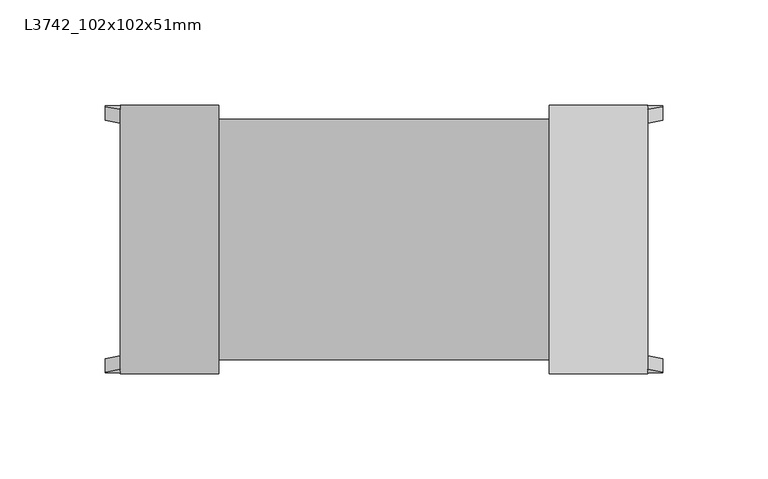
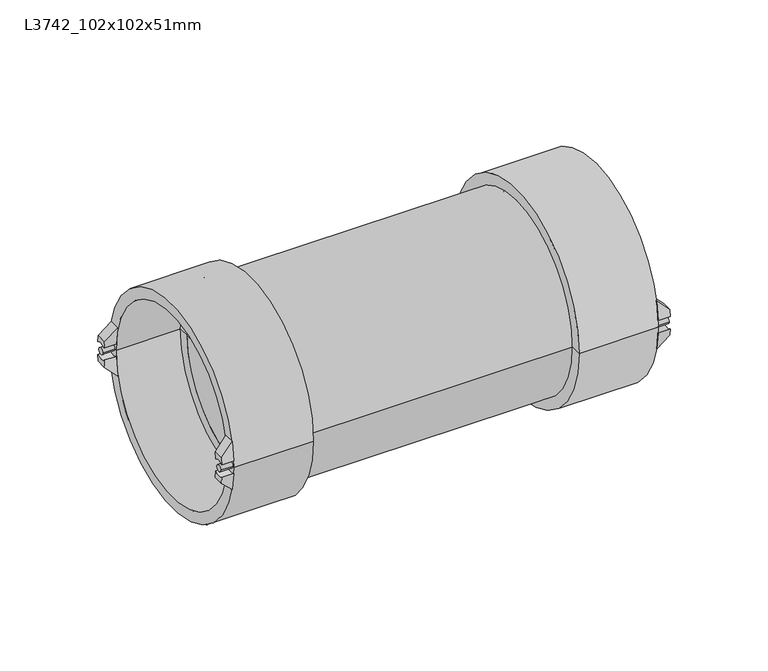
"""IFC4 building model written with IfcOpenShell, lengths in millimetres: pipe fitting geometry, Durapipe_PipeFitting_VulcatheneEnfusion_SingleReducingWye_L37 : L3742_102x102x51mm."""

from ifc_helpers import new_model, si_unit, point, frame, frame_2d, origin, place, context, project, spatial, polyline, circle_curve, ellipse_curve, trimmed, segment, composite_curve, outline, extrude, source, transform, mapped, element, save
from ifc_brep_helpers import plane_surface, cylinder_surface, revolved_surface, advanced_brep


def l3742_102x102x51mm_a3f06ccc(model_context):
    return source(origin(), model_context, "Body", "SolidModel", [
        advanced_brep(
        [(210.5, -57.1766484, -3.7577755), (210.5, -63.5266484, -3.9607376), (210.5, -63.1528218, -7.94), (210.5, -56.7472149, -7.94), (203.4, -61.8572752, -15.0), (203.4, -63.5266484, -3.9607376), (203.4, -57.1766484, -3.7577755), (203.4, -55.3018083, -15.0)],
        [
            (0, 1, circle_curve(frame((210.5, -60.475, 0.0), z_axis=(-1.0, 0.0, 0.0), x_axis=(0.0, 1.0, 0.0)), 5.0)),
            (1, 2, circle_curve(frame((210.5, 0.0, 0.0), z_axis=(1.0, 0.0, 0.0), x_axis=(0.0, 1.0, 0.0)), 63.65)),
            (2, 3),
            (3, 0, circle_curve(frame((210.5, 0.0, 0.0), z_axis=(-1.0, 0.0, 0.0), x_axis=(0.0, 1.0, 0.0)), 57.3)),
            (4, 5, circle_curve(frame((203.4, 0.0, 0.0), z_axis=(-1.0, 0.0, 0.0), x_axis=(0.0, 1.0, 0.0)), 63.65)),
            (5, 6, circle_curve(frame((203.4, -60.475, 0.0), z_axis=(1.0, 0.0, 0.0), x_axis=(0.0, 1.0, 0.0)), 5.0)),
            (6, 7, circle_curve(frame((203.4, 0.0, 0.0), z_axis=(1.0, 0.0, 0.0), x_axis=(0.0, 1.0, 0.0)), 57.3)),
            (7, 4),
            (6, 0),
            (3, 7, ellipse_curve(frame((218.4849858, 0.0, 0.0), z_axis=(0.705106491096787, 0.0, -0.7091014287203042), x_axis=(-0.7091014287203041, 0.0, -0.705106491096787)), 81.2643207, 57.3)),
            (4, 2, ellipse_curve(frame((218.4849858, 0.0, 0.0), z_axis=(-0.705106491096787, 0.0, 0.7091014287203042), x_axis=(0.7091014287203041, 0.0, 0.705106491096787)), 90.2700525, 63.65)),
            (1, 5),
        ],
        [
            plane_surface(frame((210.5, -61.8572752, -15.0), z_axis=(1.0, 0.0, 0.0), x_axis=(0.0, 1.0, 0.0))),
            plane_surface(frame((203.4, -61.8572752, -15.0), z_axis=(-1.0, 0.0, 0.0), x_axis=(0.0, -1.0, 0.0))),
            revolved_surface(polyline([(160.860339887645, 57.3, 0.0), (276.109631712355, 57.3, 0.0)]), (203.4, 0.0, 0.0), (-1.0, 0.0, 0.0)),
            cylinder_surface(frame((203.4, 0.0, 0.0), z_axis=(1.0, 0.0, 0.0), x_axis=(0.0, 1.0, 0.0)), 63.65),
            revolved_surface(polyline([(210.5, -55.475, 0.0), (203.4, -55.475, 0.0)]), (203.4, -60.475, 0.0), (1.0, 0.0, 0.0)),
            plane_surface(frame((203.4, 63.65, -15.0), z_axis=(0.705106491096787, 0.0, -0.7091014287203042), x_axis=(0.0, -1.0, 0.0))),
        ],
        [
            (0, [[1, 2, 3, 4]]),
            (1, [[5, 6, 7, 8]]),
            (2, [[-7, 9, -4, 10]]),
            (3, [[-5, 11, -2, 12]]),
            (4, [[-1, -9, -6, -12]]),
            (5, [[-3, -11, -8, -10]]),
        ],
    ),
        advanced_brep(
        [(210.5, -63.5266484, 3.9607376), (210.5, -57.1766484, 3.7577755), (210.5, -56.7472149, 7.94), (210.5, -63.1528218, 7.94), (203.4, -63.5266484, 3.9607376), (203.4, -61.8572752, 15.0), (203.4, -55.3018083, 15.0), (203.4, -57.1766484, 3.7577755)],
        [
            (0, 1, circle_curve(frame((210.5, -60.475, 0.0), z_axis=(-1.0, 0.0, 0.0), x_axis=(0.0, 1.0, 0.0)), 5.0)),
            (1, 2, circle_curve(frame((210.5, 0.0, 0.0), z_axis=(-1.0, 0.0, 0.0), x_axis=(0.0, 1.0, 0.0)), 57.3)),
            (2, 3),
            (3, 0, circle_curve(frame((210.5, 0.0, 0.0), z_axis=(1.0, 0.0, 0.0), x_axis=(0.0, 1.0, 0.0)), 63.65)),
            (4, 5, circle_curve(frame((203.4, 0.0, 0.0), z_axis=(-1.0, 0.0, 0.0), x_axis=(0.0, 1.0, 0.0)), 63.65)),
            (5, 6),
            (6, 7, circle_curve(frame((203.4, 0.0, 0.0), z_axis=(1.0, 0.0, 0.0), x_axis=(0.0, 1.0, 0.0)), 57.3)),
            (7, 4, circle_curve(frame((203.4, -60.475, 0.0), z_axis=(1.0, 0.0, 0.0), x_axis=(0.0, 1.0, 0.0)), 5.0)),
            (6, 2, ellipse_curve(frame((218.4849858, 0.0, 0.0), z_axis=(0.7051064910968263, 0.0, 0.7091014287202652), x_axis=(-0.7091014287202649, 0.0, 0.7051064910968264)), 81.2643207, 57.3)),
            (1, 7),
            (4, 0),
            (3, 5, ellipse_curve(frame((218.4849858, 0.0, 0.0), z_axis=(-0.7051064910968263, 0.0, -0.7091014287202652), x_axis=(0.7091014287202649, 0.0, -0.7051064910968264)), 90.2700525, 63.65)),
        ],
        [
            plane_surface(frame((210.5, -61.8572752, -15.0), z_axis=(1.0, 0.0, 0.0), x_axis=(0.0, 1.0, 0.0))),
            plane_surface(frame((203.4, -61.8572752, -15.0), z_axis=(-1.0, 0.0, 0.0), x_axis=(0.0, -1.0, 0.0))),
            revolved_surface(polyline([(160.8603398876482, 57.3, 0.0), (276.1096317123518, 57.3, 0.0)]), (203.4, 0.0, 0.0), (-1.0, 0.0, 0.0)),
            cylinder_surface(frame((203.4, 0.0, 0.0), z_axis=(1.0, 0.0, 0.0), x_axis=(0.0, 1.0, 0.0)), 63.65),
            revolved_surface(polyline([(210.5, -55.475, 0.0), (203.4, -55.475, 0.0)]), (203.4, -60.475, 0.0), (1.0, 0.0, 0.0)),
            plane_surface(frame((210.5, 63.65, 7.94), z_axis=(0.7051064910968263, 0.0, 0.7091014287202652), x_axis=(0.0, -1.0, 0.0))),
        ],
        [
            (0, [[1, 2, 3, 4]]),
            (1, [[5, 6, 7, 8]]),
            (2, [[-7, 9, -2, 10]]),
            (3, [[-5, 11, -4, 12]]),
            (4, [[-1, -11, -8, -10]]),
            (5, [[-3, -9, -6, -12]]),
        ],
    ),
        advanced_brep(
        [(210.5, 63.5266484, -3.9607376), (210.5, 57.1766484, -3.7577755), (210.5, 56.7472149, -7.94), (210.5, 63.1528218, -7.94), (203.4, 63.5266484, -3.9607376), (203.4, 61.8572752, -15.0), (203.4, 55.3018083, -15.0), (203.4, 57.1766484, -3.7577755)],
        [
            (0, 1, circle_curve(frame((210.5, 60.475, 0.0), z_axis=(-1.0, 0.0, 0.0), x_axis=(0.0, 1.0, 0.0)), 5.0)),
            (1, 2, circle_curve(frame((210.5, 0.0, 0.0), z_axis=(-1.0, 0.0, 0.0), x_axis=(0.0, 1.0, 0.0)), 57.3)),
            (2, 3),
            (3, 0, circle_curve(frame((210.5, 0.0, 0.0), z_axis=(1.0, 0.0, 0.0), x_axis=(0.0, 1.0, 0.0)), 63.65)),
            (4, 5, circle_curve(frame((203.4, 0.0, 0.0), z_axis=(-1.0, 0.0, 0.0), x_axis=(0.0, 1.0, 0.0)), 63.65)),
            (5, 6),
            (6, 7, circle_curve(frame((203.4, 0.0, 0.0), z_axis=(1.0, 0.0, 0.0), x_axis=(0.0, 1.0, 0.0)), 57.3)),
            (7, 4, circle_curve(frame((203.4, 60.475, 0.0), z_axis=(1.0, 0.0, 0.0), x_axis=(0.0, 1.0, 0.0)), 5.0)),
            (6, 2, ellipse_curve(frame((218.4849858, 0.0, 0.0), z_axis=(0.705106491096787, 0.0, -0.7091014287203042), x_axis=(-0.7091014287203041, 0.0, -0.705106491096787)), 81.2643207, 57.3)),
            (1, 7),
            (4, 0),
            (3, 5, ellipse_curve(frame((218.4849858, 0.0, 0.0), z_axis=(-0.705106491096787, 0.0, 0.7091014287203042), x_axis=(0.7091014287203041, 0.0, 0.705106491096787)), 90.2700525, 63.65)),
        ],
        [
            plane_surface(frame((210.5, -61.8572752, -15.0), z_axis=(1.0, 0.0, 0.0), x_axis=(0.0, 1.0, 0.0))),
            plane_surface(frame((203.4, -61.8572752, -15.0), z_axis=(-1.0, 0.0, 0.0), x_axis=(0.0, -1.0, 0.0))),
            revolved_surface(polyline([(160.860339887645, 57.3, 0.0), (276.109631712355, 57.3, 0.0)]), (203.4, 0.0, 0.0), (-1.0, 0.0, 0.0)),
            cylinder_surface(frame((203.4, 0.0, 0.0), z_axis=(1.0, 0.0, 0.0), x_axis=(0.0, 1.0, 0.0)), 63.65),
            revolved_surface(polyline([(210.5, 65.475, 0.0), (203.4, 65.475, 0.0)]), (203.4, 60.475, 0.0), (1.0, 0.0, 0.0)),
            plane_surface(frame((203.4, 63.65, -15.0), z_axis=(0.705106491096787, 0.0, -0.7091014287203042), x_axis=(0.0, -1.0, 0.0))),
        ],
        [
            (0, [[1, 2, 3, 4]]),
            (1, [[5, 6, 7, 8]]),
            (2, [[-7, 9, -2, 10]]),
            (3, [[-5, 11, -4, 12]]),
            (4, [[-1, -11, -8, -10]]),
            (5, [[-3, -9, -6, -12]]),
        ],
    ),
        advanced_brep(
        [(210.5, 57.1766484, 3.7577755), (210.5, 63.5266484, 3.9607376), (210.5, 63.1528218, 7.94), (210.5, 56.7472149, 7.94), (203.4, 61.8572752, 15.0), (203.4, 63.5266484, 3.9607376), (203.4, 57.1766484, 3.7577755), (203.4, 55.3018083, 15.0)],
        [
            (0, 1, circle_curve(frame((210.5, 60.475, 0.0), z_axis=(-1.0, 0.0, 0.0), x_axis=(0.0, 1.0, 0.0)), 5.0)),
            (1, 2, circle_curve(frame((210.5, 0.0, 0.0), z_axis=(1.0, 0.0, 0.0), x_axis=(0.0, 1.0, 0.0)), 63.65)),
            (2, 3),
            (3, 0, circle_curve(frame((210.5, 0.0, 0.0), z_axis=(-1.0, 0.0, 0.0), x_axis=(0.0, 1.0, 0.0)), 57.3)),
            (4, 5, circle_curve(frame((203.4, 0.0, 0.0), z_axis=(-1.0, 0.0, 0.0), x_axis=(0.0, 1.0, 0.0)), 63.65)),
            (5, 6, circle_curve(frame((203.4, 60.475, 0.0), z_axis=(1.0, 0.0, 0.0), x_axis=(0.0, 1.0, 0.0)), 5.0)),
            (6, 7, circle_curve(frame((203.4, 0.0, 0.0), z_axis=(1.0, 0.0, 0.0), x_axis=(0.0, 1.0, 0.0)), 57.3)),
            (7, 4),
            (6, 0),
            (3, 7, ellipse_curve(frame((218.4849858, 0.0, 0.0), z_axis=(0.7051064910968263, 0.0, 0.7091014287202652), x_axis=(-0.7091014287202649, 0.0, 0.7051064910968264)), 81.2643207, 57.3)),
            (4, 2, ellipse_curve(frame((218.4849858, 0.0, 0.0), z_axis=(-0.7051064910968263, 0.0, -0.7091014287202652), x_axis=(0.7091014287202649, 0.0, -0.7051064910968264)), 90.2700525, 63.65)),
            (1, 5),
        ],
        [
            plane_surface(frame((210.5, -61.8572752, -15.0), z_axis=(1.0, 0.0, 0.0), x_axis=(0.0, 1.0, 0.0))),
            plane_surface(frame((203.4, -61.8572752, -15.0), z_axis=(-1.0, 0.0, 0.0), x_axis=(0.0, -1.0, 0.0))),
            revolved_surface(polyline([(160.8603398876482, 57.3, 0.0), (276.1096317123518, 57.3, 0.0)]), (203.4, 0.0, 0.0), (-1.0, 0.0, 0.0)),
            cylinder_surface(frame((203.4, 0.0, 0.0), z_axis=(1.0, 0.0, 0.0), x_axis=(0.0, 1.0, 0.0)), 63.65),
            revolved_surface(polyline([(210.5, 65.475, 0.0), (203.4, 65.475, 0.0)]), (203.4, 60.475, 0.0), (1.0, 0.0, 0.0)),
            plane_surface(frame((210.5, 63.65, 7.94), z_axis=(0.7051064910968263, 0.0, 0.7091014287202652), x_axis=(0.0, -1.0, 0.0))),
        ],
        [
            (0, [[1, 2, 3, 4]]),
            (1, [[5, 6, 7, 8]]),
            (2, [[-7, 9, -4, 10]]),
            (3, [[-5, 11, -2, 12]]),
            (4, [[-1, -9, -6, -12]]),
            (5, [[-3, -11, -8, -10]]),
        ],
    ),
        extrude(outline(composite_curve([segment(trimmed(circle_curve(frame_2d((-60.475, 0.0)), 2.0), [point((-62.475, 0.0))], [point((-58.475, 0.0))], False, "CARTESIAN"), True, "CONTINUOUS"), segment(trimmed(circle_curve(frame_2d((-60.475, 0.0)), 2.0), [point((-58.475, 0.0))], [point((-62.475, 0.0))], False, "CARTESIAN"), True, "CONTINUOUS")], self_intersect=False)), frame((203.4, 0.0, 0.0), z_axis=(1.0, 0.0, 0.0), x_axis=(0.0, 1.0, 0.0)), (0.0, 0.0, 1.0), 7.1),
        extrude(outline(composite_curve([segment(trimmed(circle_curve(frame_2d((60.475, 0.0)), 2.0), [point((58.475, 0.0))], [point((62.475, 0.0))], False, "CARTESIAN"), True, "CONTINUOUS"), segment(trimmed(circle_curve(frame_2d((60.475, 0.0)), 2.0), [point((62.475, 0.0))], [point((58.475, 0.0))], False, "CARTESIAN"), True, "CONTINUOUS")], self_intersect=False)), frame((203.4, 0.0, 0.0), z_axis=(1.0, 0.0, 0.0), x_axis=(0.0, 1.0, 0.0)), (0.0, 0.0, 1.0), 7.1),
        advanced_brep(
        [(165.3, -50.75, 0.0), (165.3, 50.75, 0.0), (165.3, 57.15, 0.0), (165.3, -57.15, 0.0), (156.5, -50.75, 0.0), (156.5, 50.75, 0.0), (156.5, -63.8, 0.0), (156.5, 63.8, 0.0), (203.4, -63.8, 0.0), (203.4, 63.8, 0.0), (203.4, -57.15, 0.0), (203.4, 57.15, 0.0)],
        [
            (0, 1, circle_curve(frame((165.3, 0.0, 0.0), z_axis=(-1.0, 0.0, 0.0), x_axis=(0.0, 1.0, 0.0)), 50.75)),
            (1, 2),
            (2, 3, circle_curve(frame((165.3, 0.0, 0.0), z_axis=(1.0, 0.0, 0.0), x_axis=(0.0, 1.0, 0.0)), 57.15)),
            (3, 0),
            (1, 0, circle_curve(frame((165.3, 0.0, 0.0), z_axis=(-1.0, 0.0, 0.0), x_axis=(0.0, 1.0, 0.0)), 50.75)),
            (3, 2, circle_curve(frame((165.3, 0.0, 0.0), z_axis=(1.0, 0.0, 0.0), x_axis=(0.0, 1.0, 0.0)), 57.15)),
            (4, 5, circle_curve(frame((156.5, 0.0, 0.0), z_axis=(-1.0, 0.0, 0.0), x_axis=(0.0, 1.0, 0.0)), 50.75)),
            (5, 1),
            (0, 4),
            (5, 4, circle_curve(frame((156.5, 0.0, 0.0), z_axis=(-1.0, 0.0, 0.0), x_axis=(0.0, 1.0, 0.0)), 50.75)),
            (6, 7, circle_curve(frame((156.5, 0.0, 0.0), z_axis=(-1.0, 0.0, 0.0), x_axis=(0.0, 1.0, 0.0)), 63.8)),
            (7, 5),
            (4, 6),
            (7, 6, circle_curve(frame((156.5, 0.0, 0.0), z_axis=(-1.0, 0.0, 0.0), x_axis=(0.0, 1.0, 0.0)), 63.8)),
            (8, 9, circle_curve(frame((203.4, 0.0, 0.0), z_axis=(-1.0, 0.0, 0.0), x_axis=(0.0, 1.0, 0.0)), 63.8)),
            (9, 7),
            (6, 8),
            (9, 8, circle_curve(frame((203.4, 0.0, 0.0), z_axis=(-1.0, 0.0, 0.0), x_axis=(0.0, 1.0, 0.0)), 63.8)),
            (10, 11, circle_curve(frame((203.4, 0.0, 0.0), z_axis=(-1.0, 0.0, 0.0), x_axis=(0.0, 1.0, 0.0)), 57.15)),
            (11, 9),
            (8, 10),
            (11, 10, circle_curve(frame((203.4, 0.0, 0.0), z_axis=(-1.0, 0.0, 0.0), x_axis=(0.0, 1.0, 0.0)), 57.15)),
            (2, 11),
            (10, 3),
        ],
        [
            plane_surface(frame((165.3, 0.0, 0.0), z_axis=(1.0, 0.0, 0.0), x_axis=(0.0, 1.0, 0.0))),
            revolved_surface(polyline([(165.30000000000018, 50.75, 0.0), (156.5, 50.75, 0.0)]), (2717.3826241, 0.0, 0.0), (1.0, 0.0, 0.0)),
            plane_surface(frame((156.5, 0.0, 0.0), z_axis=(-1.0, 0.0, 0.0), x_axis=(0.0, 1.0, 0.0))),
            cylinder_surface(frame((2717.3826241, 0.0, 0.0), z_axis=(1.0, 0.0, 0.0), x_axis=(0.0, 1.0, 0.0)), 63.8),
            plane_surface(frame((203.4, 0.0, 0.0), z_axis=(1.0, 0.0, 0.0), x_axis=(0.0, 1.0, 0.0))),
            revolved_surface(polyline([(203.4000000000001, 57.15, 0.0), (165.30000000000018, 57.15, 0.0)]), (2717.3826241, 0.0, 0.0), (1.0, 0.0, 0.0)),
        ],
        [
            (0, [[1, 2, 3, 4]]),
            (0, [[5, -4, 6, -2]]),
            (1, [[7, 8, -1, 9]]),
            (1, [[10, -9, -5, -8]]),
            (2, [[11, 12, -7, 13]]),
            (2, [[14, -13, -10, -12]]),
            (3, [[15, 16, -11, 17]]),
            (3, [[18, -17, -14, -16]]),
            (4, [[19, 20, -15, 21]]),
            (4, [[22, -21, -18, -20]]),
            (5, [[-3, 23, -19, 24]]),
            (5, [[-6, -24, -22, -23]]),
        ],
    ),
        advanced_brep(
        [(-54.7, -57.1766484, 3.7577755), (-54.7, -63.5266484, 3.9607376), (-54.7, -63.1528218, 7.94), (-54.7, -56.7472149, 7.94), (-47.6, -61.8572752, 15.0), (-47.6, -63.5266484, 3.9607376), (-47.6, -57.1766484, 3.7577755), (-47.6, -55.3018083, 15.0)],
        [
            (0, 1, circle_curve(frame((-54.7, -60.475, 0.0), z_axis=(1.0, 0.0, 0.0), x_axis=(0.0, 1.0, 0.0)), 5.0)),
            (1, 2, circle_curve(frame((-54.7, 0.0, 0.0), z_axis=(-1.0, 0.0, 0.0), x_axis=(0.0, 1.0, 0.0)), 63.65)),
            (2, 3),
            (3, 0, circle_curve(frame((-54.7, 0.0, 0.0), z_axis=(1.0, 0.0, 0.0), x_axis=(0.0, 1.0, 0.0)), 57.3)),
            (4, 5, circle_curve(frame((-47.6, 0.0, 0.0), z_axis=(1.0, 0.0, 0.0), x_axis=(0.0, 1.0, 0.0)), 63.65)),
            (5, 6, circle_curve(frame((-47.6, -60.475, 0.0), z_axis=(-1.0, 0.0, 0.0), x_axis=(0.0, 1.0, 0.0)), 5.0)),
            (6, 7, circle_curve(frame((-47.6, 0.0, 0.0), z_axis=(-1.0, 0.0, 0.0), x_axis=(0.0, 1.0, 0.0)), 57.3)),
            (7, 4),
            (6, 0),
            (3, 7, ellipse_curve(frame((-62.6849858, 0.0, 0.0), z_axis=(-0.705106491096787, 0.0, 0.7091014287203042), x_axis=(0.7091014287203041, 0.0, 0.705106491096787)), 81.2643207, 57.3)),
            (4, 2, ellipse_curve(frame((-62.6849858, 0.0, 0.0), z_axis=(0.705106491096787, 0.0, -0.7091014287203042), x_axis=(-0.7091014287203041, 0.0, -0.705106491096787)), 90.2700525, 63.65)),
            (1, 5),
        ],
        [
            plane_surface(frame((-54.7, -61.8572752, 15.0), z_axis=(-1.0, 0.0, 0.0), x_axis=(0.0, 1.0, 0.0))),
            plane_surface(frame((-47.6, -61.8572752, 15.0), z_axis=(1.0, 0.0, 0.0), x_axis=(0.0, -1.0, 0.0))),
            revolved_surface(polyline([(-5.060339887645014, 57.3, 0.0), (-120.30963171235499, 57.3, 0.0)]), (-47.6, 0.0, 0.0), (1.0, 0.0, 0.0)),
            cylinder_surface(frame((-47.6, 0.0, 0.0), z_axis=(-1.0, 0.0, 0.0), x_axis=(0.0, 1.0, 0.0)), 63.65),
            revolved_surface(polyline([(-54.7, -55.475, 0.0), (-47.6, -55.475, 0.0)]), (-47.6, -60.475, 0.0), (-1.0, 0.0, 0.0)),
            plane_surface(frame((-47.6, 63.65, 15.0), z_axis=(-0.705106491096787, 0.0, 0.7091014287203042), x_axis=(0.0, -1.0, 0.0))),
        ],
        [
            (0, [[1, 2, 3, 4]]),
            (1, [[5, 6, 7, 8]]),
            (2, [[-7, 9, -4, 10]]),
            (3, [[-5, 11, -2, 12]]),
            (4, [[-1, -9, -6, -12]]),
            (5, [[-3, -11, -8, -10]]),
        ],
    ),
        advanced_brep(
        [(-54.7, -63.5266484, -3.9607376), (-54.7, -57.1766484, -3.7577755), (-54.7, -56.7472149, -7.94), (-54.7, -63.1528218, -7.94), (-47.6, -63.5266484, -3.9607376), (-47.6, -61.8572752, -15.0), (-47.6, -55.3018083, -15.0), (-47.6, -57.1766484, -3.7577755)],
        [
            (0, 1, circle_curve(frame((-54.7, -60.475, 0.0), z_axis=(1.0, 0.0, 0.0), x_axis=(0.0, 1.0, 0.0)), 5.0)),
            (1, 2, circle_curve(frame((-54.7, 0.0, 0.0), z_axis=(1.0, 0.0, 0.0), x_axis=(0.0, 1.0, 0.0)), 57.3)),
            (2, 3),
            (3, 0, circle_curve(frame((-54.7, 0.0, 0.0), z_axis=(-1.0, 0.0, 0.0), x_axis=(0.0, 1.0, 0.0)), 63.65)),
            (4, 5, circle_curve(frame((-47.6, 0.0, 0.0), z_axis=(1.0, 0.0, 0.0), x_axis=(0.0, 1.0, 0.0)), 63.65)),
            (5, 6),
            (6, 7, circle_curve(frame((-47.6, 0.0, 0.0), z_axis=(-1.0, 0.0, 0.0), x_axis=(0.0, 1.0, 0.0)), 57.3)),
            (7, 4, circle_curve(frame((-47.6, -60.475, 0.0), z_axis=(-1.0, 0.0, 0.0), x_axis=(0.0, 1.0, 0.0)), 5.0)),
            (6, 2, ellipse_curve(frame((-62.6849858, 0.0, 0.0), z_axis=(-0.7051064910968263, 0.0, -0.7091014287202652), x_axis=(0.7091014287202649, 0.0, -0.7051064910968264)), 81.2643207, 57.3)),
            (1, 7),
            (4, 0),
            (3, 5, ellipse_curve(frame((-62.6849858, 0.0, 0.0), z_axis=(0.7051064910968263, 0.0, 0.7091014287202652), x_axis=(-0.7091014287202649, 0.0, 0.7051064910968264)), 90.2700525, 63.65)),
        ],
        [
            plane_surface(frame((-54.7, -61.8572752, 15.0), z_axis=(-1.0, 0.0, 0.0), x_axis=(0.0, 1.0, 0.0))),
            plane_surface(frame((-47.6, -61.8572752, 15.0), z_axis=(1.0, 0.0, 0.0), x_axis=(0.0, -1.0, 0.0))),
            revolved_surface(polyline([(-5.0603398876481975, 57.3, 0.0), (-120.3096317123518, 57.3, 0.0)]), (-47.6, 0.0, 0.0), (1.0, 0.0, 0.0)),
            cylinder_surface(frame((-47.6, 0.0, 0.0), z_axis=(-1.0, 0.0, 0.0), x_axis=(0.0, 1.0, 0.0)), 63.65),
            revolved_surface(polyline([(-54.7, -55.475, 0.0), (-47.6, -55.475, 0.0)]), (-47.6, -60.475, 0.0), (-1.0, 0.0, 0.0)),
            plane_surface(frame((-54.7, 63.65, -7.94), z_axis=(-0.7051064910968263, 0.0, -0.7091014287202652), x_axis=(0.0, -1.0, 0.0))),
        ],
        [
            (0, [[1, 2, 3, 4]]),
            (1, [[5, 6, 7, 8]]),
            (2, [[-7, 9, -2, 10]]),
            (3, [[-5, 11, -4, 12]]),
            (4, [[-1, -11, -8, -10]]),
            (5, [[-3, -9, -6, -12]]),
        ],
    ),
        advanced_brep(
        [(-54.7, 63.5266484, 3.9607376), (-54.7, 57.1766484, 3.7577755), (-54.7, 56.7472149, 7.94), (-54.7, 63.1528218, 7.94), (-47.6, 63.5266484, 3.9607376), (-47.6, 61.8572752, 15.0), (-47.6, 55.3018083, 15.0), (-47.6, 57.1766484, 3.7577755)],
        [
            (0, 1, circle_curve(frame((-54.7, 60.475, 0.0), z_axis=(1.0, 0.0, 0.0), x_axis=(0.0, 1.0, 0.0)), 5.0)),
            (1, 2, circle_curve(frame((-54.7, 0.0, 0.0), z_axis=(1.0, 0.0, 0.0), x_axis=(0.0, 1.0, 0.0)), 57.3)),
            (2, 3),
            (3, 0, circle_curve(frame((-54.7, 0.0, 0.0), z_axis=(-1.0, 0.0, 0.0), x_axis=(0.0, 1.0, 0.0)), 63.65)),
            (4, 5, circle_curve(frame((-47.6, 0.0, 0.0), z_axis=(1.0, 0.0, 0.0), x_axis=(0.0, 1.0, 0.0)), 63.65)),
            (5, 6),
            (6, 7, circle_curve(frame((-47.6, 0.0, 0.0), z_axis=(-1.0, 0.0, 0.0), x_axis=(0.0, 1.0, 0.0)), 57.3)),
            (7, 4, circle_curve(frame((-47.6, 60.475, 0.0), z_axis=(-1.0, 0.0, 0.0), x_axis=(0.0, 1.0, 0.0)), 5.0)),
            (6, 2, ellipse_curve(frame((-62.6849858, 0.0, 0.0), z_axis=(-0.705106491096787, 0.0, 0.7091014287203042), x_axis=(0.7091014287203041, 0.0, 0.705106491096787)), 81.2643207, 57.3)),
            (1, 7),
            (4, 0),
            (3, 5, ellipse_curve(frame((-62.6849858, 0.0, 0.0), z_axis=(0.705106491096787, 0.0, -0.7091014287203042), x_axis=(-0.7091014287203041, 0.0, -0.705106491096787)), 90.2700525, 63.65)),
        ],
        [
            plane_surface(frame((-54.7, -61.8572752, 15.0), z_axis=(-1.0, 0.0, 0.0), x_axis=(0.0, 1.0, 0.0))),
            plane_surface(frame((-47.6, -61.8572752, 15.0), z_axis=(1.0, 0.0, 0.0), x_axis=(0.0, -1.0, 0.0))),
            revolved_surface(polyline([(-5.060339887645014, 57.3, 0.0), (-120.30963171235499, 57.3, 0.0)]), (-47.6, 0.0, 0.0), (1.0, 0.0, 0.0)),
            cylinder_surface(frame((-47.6, 0.0, 0.0), z_axis=(-1.0, 0.0, 0.0), x_axis=(0.0, 1.0, 0.0)), 63.65),
            revolved_surface(polyline([(-54.7, 65.475, 0.0), (-47.6, 65.475, 0.0)]), (-47.6, 60.475, 0.0), (-1.0, 0.0, 0.0)),
            plane_surface(frame((-47.6, 63.65, 15.0), z_axis=(-0.705106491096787, 0.0, 0.7091014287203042), x_axis=(0.0, -1.0, 0.0))),
        ],
        [
            (0, [[1, 2, 3, 4]]),
            (1, [[5, 6, 7, 8]]),
            (2, [[-7, 9, -2, 10]]),
            (3, [[-5, 11, -4, 12]]),
            (4, [[-1, -11, -8, -10]]),
            (5, [[-3, -9, -6, -12]]),
        ],
    ),
        advanced_brep(
        [(-54.7, 57.1766484, -3.7577755), (-54.7, 63.5266484, -3.9607376), (-54.7, 63.1528218, -7.94), (-54.7, 56.7472149, -7.94), (-47.6, 61.8572752, -15.0), (-47.6, 63.5266484, -3.9607376), (-47.6, 57.1766484, -3.7577755), (-47.6, 55.3018083, -15.0)],
        [
            (0, 1, circle_curve(frame((-54.7, 60.475, 0.0), z_axis=(1.0, 0.0, 0.0), x_axis=(0.0, 1.0, 0.0)), 5.0)),
            (1, 2, circle_curve(frame((-54.7, 0.0, 0.0), z_axis=(-1.0, 0.0, 0.0), x_axis=(0.0, 1.0, 0.0)), 63.65)),
            (2, 3),
            (3, 0, circle_curve(frame((-54.7, 0.0, 0.0), z_axis=(1.0, 0.0, 0.0), x_axis=(0.0, 1.0, 0.0)), 57.3)),
            (4, 5, circle_curve(frame((-47.6, 0.0, 0.0), z_axis=(1.0, 0.0, 0.0), x_axis=(0.0, 1.0, 0.0)), 63.65)),
            (5, 6, circle_curve(frame((-47.6, 60.475, 0.0), z_axis=(-1.0, 0.0, 0.0), x_axis=(0.0, 1.0, 0.0)), 5.0)),
            (6, 7, circle_curve(frame((-47.6, 0.0, 0.0), z_axis=(-1.0, 0.0, 0.0), x_axis=(0.0, 1.0, 0.0)), 57.3)),
            (7, 4),
            (6, 0),
            (3, 7, ellipse_curve(frame((-62.6849858, 0.0, 0.0), z_axis=(-0.7051064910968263, 0.0, -0.7091014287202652), x_axis=(0.7091014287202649, 0.0, -0.7051064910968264)), 81.2643207, 57.3)),
            (4, 2, ellipse_curve(frame((-62.6849858, 0.0, 0.0), z_axis=(0.7051064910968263, 0.0, 0.7091014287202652), x_axis=(-0.7091014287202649, 0.0, 0.7051064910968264)), 90.2700525, 63.65)),
            (1, 5),
        ],
        [
            plane_surface(frame((-54.7, -61.8572752, 15.0), z_axis=(-1.0, 0.0, 0.0), x_axis=(0.0, 1.0, 0.0))),
            plane_surface(frame((-47.6, -61.8572752, 15.0), z_axis=(1.0, 0.0, 0.0), x_axis=(0.0, -1.0, 0.0))),
            revolved_surface(polyline([(-5.0603398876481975, 57.3, 0.0), (-120.3096317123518, 57.3, 0.0)]), (-47.6, 0.0, 0.0), (1.0, 0.0, 0.0)),
            cylinder_surface(frame((-47.6, 0.0, 0.0), z_axis=(-1.0, 0.0, 0.0), x_axis=(0.0, 1.0, 0.0)), 63.65),
            revolved_surface(polyline([(-54.7, 65.475, 0.0), (-47.6, 65.475, 0.0)]), (-47.6, 60.475, 0.0), (-1.0, 0.0, 0.0)),
            plane_surface(frame((-54.7, 63.65, -7.94), z_axis=(-0.7051064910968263, 0.0, -0.7091014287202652), x_axis=(0.0, -1.0, 0.0))),
        ],
        [
            (0, [[1, 2, 3, 4]]),
            (1, [[5, 6, 7, 8]]),
            (2, [[-7, 9, -4, 10]]),
            (3, [[-5, 11, -2, 12]]),
            (4, [[-1, -9, -6, -12]]),
            (5, [[-3, -11, -8, -10]]),
        ],
    ),
        extrude(outline(composite_curve([segment(trimmed(circle_curve(frame_2d((-60.475, 0.0)), 2.0), [point((-62.475, 0.0))], [point((-58.475, 0.0))], False, "CARTESIAN"), True, "CONTINUOUS"), segment(trimmed(circle_curve(frame_2d((-60.475, 0.0)), 2.0), [point((-58.475, 0.0))], [point((-62.475, 0.0))], False, "CARTESIAN"), True, "CONTINUOUS")], self_intersect=False)), frame((-54.7, 0.0, 0.0), z_axis=(1.0, 0.0, 0.0), x_axis=(0.0, 1.0, 0.0)), (0.0, 0.0, 1.0), 7.1),
        extrude(outline(composite_curve([segment(trimmed(circle_curve(frame_2d((60.475, 0.0)), 2.0), [point((58.475, 0.0))], [point((62.475, 0.0))], False, "CARTESIAN"), True, "CONTINUOUS"), segment(trimmed(circle_curve(frame_2d((60.475, 0.0)), 2.0), [point((62.475, 0.0))], [point((58.475, 0.0))], False, "CARTESIAN"), True, "CONTINUOUS")], self_intersect=False)), frame((-54.7, 0.0, 0.0), z_axis=(1.0, 0.0, 0.0), x_axis=(0.0, 1.0, 0.0)), (0.0, 0.0, 1.0), 7.1),
        advanced_brep(
        [(-9.5, -50.75, 0.0), (-9.5, 50.75, 0.0), (-9.5, 57.15, 0.0), (-9.5, -57.15, 0.0), (-0.7, -50.75, 0.0), (-0.7, 50.75, 0.0), (-0.7, -63.8, 0.0), (-0.7, 63.8, 0.0), (-47.6, -63.8, 0.0), (-47.6, 63.8, 0.0), (-47.6, -57.15, 0.0), (-47.6, 57.15, 0.0)],
        [
            (0, 1, circle_curve(frame((-9.5, 0.0, 0.0), z_axis=(1.0, 0.0, 0.0), x_axis=(0.0, 1.0, 0.0)), 50.75)),
            (1, 2),
            (2, 3, circle_curve(frame((-9.5, 0.0, 0.0), z_axis=(-1.0, 0.0, 0.0), x_axis=(0.0, 1.0, 0.0)), 57.15)),
            (3, 0),
            (1, 0, circle_curve(frame((-9.5, 0.0, 0.0), z_axis=(1.0, 0.0, 0.0), x_axis=(0.0, 1.0, 0.0)), 50.75)),
            (3, 2, circle_curve(frame((-9.5, 0.0, 0.0), z_axis=(-1.0, 0.0, 0.0), x_axis=(0.0, 1.0, 0.0)), 57.15)),
            (4, 5, circle_curve(frame((-0.7, 0.0, 0.0), z_axis=(1.0, 0.0, 0.0), x_axis=(0.0, 1.0, 0.0)), 50.75)),
            (5, 1),
            (0, 4),
            (5, 4, circle_curve(frame((-0.7, 0.0, 0.0), z_axis=(1.0, 0.0, 0.0), x_axis=(0.0, 1.0, 0.0)), 50.75)),
            (6, 7, circle_curve(frame((-0.7, 0.0, 0.0), z_axis=(1.0, 0.0, 0.0), x_axis=(0.0, 1.0, 0.0)), 63.8)),
            (7, 5),
            (4, 6),
            (7, 6, circle_curve(frame((-0.7, 0.0, 0.0), z_axis=(1.0, 0.0, 0.0), x_axis=(0.0, 1.0, 0.0)), 63.8)),
            (8, 9, circle_curve(frame((-47.6, 0.0, 0.0), z_axis=(1.0, 0.0, 0.0), x_axis=(0.0, 1.0, 0.0)), 63.8)),
            (9, 7),
            (6, 8),
            (9, 8, circle_curve(frame((-47.6, 0.0, 0.0), z_axis=(1.0, 0.0, 0.0), x_axis=(0.0, 1.0, 0.0)), 63.8)),
            (10, 11, circle_curve(frame((-47.6, 0.0, 0.0), z_axis=(1.0, 0.0, 0.0), x_axis=(0.0, 1.0, 0.0)), 57.15)),
            (11, 9),
            (8, 10),
            (11, 10, circle_curve(frame((-47.6, 0.0, 0.0), z_axis=(1.0, 0.0, 0.0), x_axis=(0.0, 1.0, 0.0)), 57.15)),
            (2, 11),
            (10, 3),
        ],
        [
            plane_surface(frame((-9.5, 0.0, 0.0), z_axis=(-1.0, 0.0, 0.0), x_axis=(0.0, 1.0, 0.0))),
            revolved_surface(polyline([(-9.5, 50.75, 0.0), (-0.6999999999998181, 50.75, 0.0)]), (-2561.5826241, 0.0, 0.0), (-1.0, 0.0, 0.0)),
            plane_surface(frame((-0.7, 0.0, 0.0), z_axis=(1.0, 0.0, 0.0), x_axis=(0.0, 1.0, 0.0))),
            cylinder_surface(frame((-2561.5826241, 0.0, 0.0), z_axis=(-1.0, 0.0, 0.0), x_axis=(0.0, 1.0, 0.0)), 63.8),
            plane_surface(frame((-47.6, 0.0, 0.0), z_axis=(-1.0, 0.0, 0.0), x_axis=(0.0, 1.0, 0.0))),
            revolved_surface(polyline([(-47.59999999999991, 57.15, 0.0), (-9.5, 57.15, 0.0)]), (-2561.5826241, 0.0, 0.0), (-1.0, 0.0, 0.0)),
        ],
        [
            (0, [[1, 2, 3, 4]]),
            (0, [[5, -4, 6, -2]]),
            (1, [[7, 8, -1, 9]]),
            (1, [[10, -9, -5, -8]]),
            (2, [[11, 12, -7, 13]]),
            (2, [[14, -13, -10, -12]]),
            (3, [[15, 16, -11, 17]]),
            (3, [[18, -17, -14, -16]]),
            (4, [[19, 20, -15, 21]]),
            (4, [[22, -21, -18, -20]]),
            (5, [[-3, 23, -19, 24]]),
            (5, [[-6, -24, -22, -23]]),
        ],
    ),
        advanced_brep(
        [(-9.5, 0.0, 0.0), (-9.5, 57.15, 0.0), (-9.5, -57.15, 0.0), (165.3, -57.15, 0.0), (165.3, 57.15, 0.0), (165.3, 0.0, 0.0)],
        [
            (0, 1),
            (1, 2, circle_curve(frame((-9.5, 0.0, 0.0), z_axis=(-1.0, 0.0, 0.0), x_axis=(0.0, 1.0, 0.0)), 57.15)),
            (2, 0),
            (2, 1, circle_curve(frame((-9.5, 0.0, 0.0), z_axis=(-1.0, 0.0, 0.0), x_axis=(0.0, 1.0, 0.0)), 57.15)),
            (3, 4, circle_curve(frame((165.3, 0.0, 0.0), z_axis=(1.0, 0.0, 0.0), x_axis=(0.0, 1.0, 0.0)), 57.15)),
            (4, 5),
            (5, 3),
            (4, 3, circle_curve(frame((165.3, 0.0, 0.0), z_axis=(1.0, 0.0, 0.0), x_axis=(0.0, 1.0, 0.0)), 57.15)),
            (1, 4),
            (3, 2),
        ],
        [
            plane_surface(frame((-9.5, 0.0, 0.0), z_axis=(-1.0, 0.0, 0.0), x_axis=(0.0, 1.0, 0.0))),
            plane_surface(frame((165.3, 0.0, 0.0), z_axis=(1.0, 0.0, 0.0), x_axis=(0.0, 1.0, 0.0))),
            cylinder_surface(frame((193.4, 0.0, 0.0), z_axis=(-1.0, 0.0, 0.0), x_axis=(0.0, 1.0, 0.0)), 57.15),
        ],
        [
            (0, [[1, 2, 3]]),
            (0, [[-3, 4, -1]]),
            (1, [[5, 6, 7]]),
            (1, [[8, -7, -6]]),
            (2, [[-2, 9, -5, 10]]),
            (2, [[-4, -10, -8, -9]]),
        ],
    ),
    ])


if __name__ == "__main__":
    model = new_model("IFC4")
    model_context = context("Model", 3, world=origin())
    ifc_project = project(units=[si_unit("LENGTHUNIT", "METRE", prefix="MILLI")], contexts=[model_context])
    site = spatial("IfcSite", under=ifc_project)
    building = spatial("IfcBuilding", under=site)
    placement = place(None, origin())
    l3742_102x102x51mm_shape = l3742_102x102x51mm_a3f06ccc(model_context)
    element("IfcPipeFitting", 1, ObjectType="Durapipe_PipeFitting_VulcatheneEnfusion_SingleReducingWye_L37 : L3742_102x102x51mm", at=placement, inside=building, context=model_context, shape_type="MappedRepresentation", body=[
        mapped(l3742_102x102x51mm_shape, transform((0.0, 0.0, 0.0), x_axis=(1.0, 0.0, 0.0), y_axis=(0.0, 1.0, 0.0), z_axis=(0.0, 0.0, 1.0))),
    ])
    save(model, "model.ifc")
